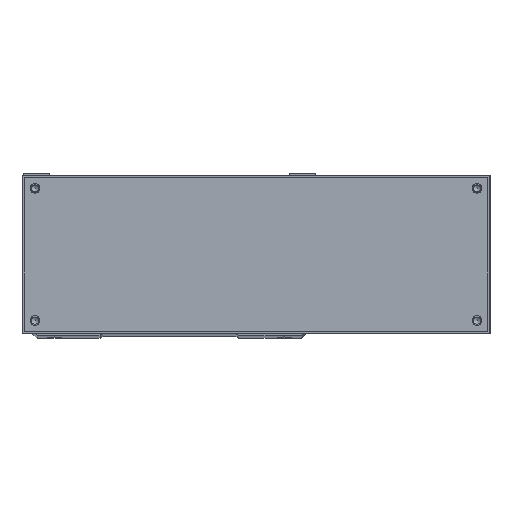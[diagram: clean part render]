
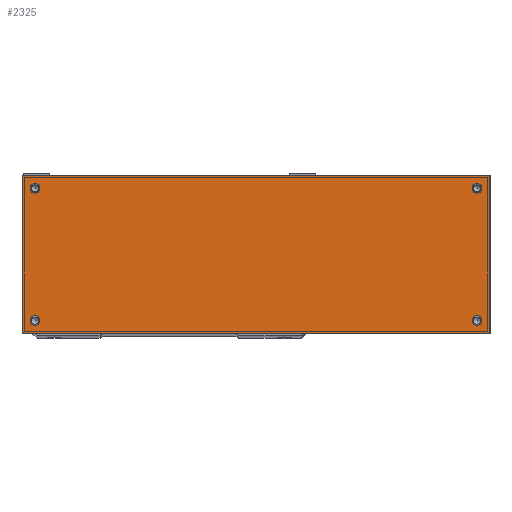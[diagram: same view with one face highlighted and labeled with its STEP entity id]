
A CAD part, top view. The second image highlights one B-rep face of the part: STEP entity #2325.
In plain terms, the highlighted planar face has unit normal (0, 0, 1).
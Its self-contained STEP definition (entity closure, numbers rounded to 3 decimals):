
#240=FACE_BOUND('',#4201,.T.);
#241=FACE_BOUND('',#4202,.T.);
#242=FACE_BOUND('',#4203,.T.);
#243=FACE_BOUND('',#4204,.T.);
#244=FACE_BOUND('',#4205,.T.);
#1036=PLANE('',#15675);
#1568=CIRCLE('',#15671,2.25);
#1569=CIRCLE('',#15672,2.25);
#1570=CIRCLE('',#15673,2.25);
#1571=CIRCLE('',#15674,2.25);
#2325=ADVANCED_FACE('8',(#240,#241,#242,#243,#244),#1036,.F.);
#4201=EDGE_LOOP('',(#8045));
#4202=EDGE_LOOP('',(#8046));
#4203=EDGE_LOOP('',(#8047));
#4204=EDGE_LOOP('',(#8048));
#4205=EDGE_LOOP('',(#8049,#8050,#8051,#8052));
#5588=LINE('',#23272,#6657);
#5589=LINE('',#23275,#6658);
#5590=LINE('',#23277,#6659);
#5591=LINE('',#23279,#6660);
#6657=VECTOR('',#17848,1.);
#6658=VECTOR('',#17849,1.);
#6659=VECTOR('',#17850,1.);
#6660=VECTOR('',#17851,1.);
#8045=ORIENTED_EDGE('',*,*,#13593,.F.);
#8046=ORIENTED_EDGE('',*,*,#13594,.F.);
#8047=ORIENTED_EDGE('',*,*,#13595,.F.);
#8048=ORIENTED_EDGE('',*,*,#13596,.F.);
#8049=ORIENTED_EDGE('',*,*,#13597,.F.);
#8050=ORIENTED_EDGE('',*,*,#13598,.F.);
#8051=ORIENTED_EDGE('',*,*,#13599,.F.);
#8052=ORIENTED_EDGE('',*,*,#13600,.F.);
#12021=VERTEX_POINT('',#23265);
#12022=VERTEX_POINT('',#23267);
#12023=VERTEX_POINT('',#23269);
#12024=VERTEX_POINT('',#23271);
#12025=VERTEX_POINT('',#23273);
#12026=VERTEX_POINT('',#23274);
#12027=VERTEX_POINT('',#23276);
#12028=VERTEX_POINT('',#23278);
#13593=EDGE_CURVE('',#12021,#12021,#1568,.T.);
#13594=EDGE_CURVE('',#12022,#12022,#1569,.T.);
#13595=EDGE_CURVE('',#12023,#12023,#1570,.T.);
#13596=EDGE_CURVE('',#12024,#12024,#1571,.T.);
#13597=EDGE_CURVE('',#12025,#12026,#5588,.T.);
#13598=EDGE_CURVE('',#12027,#12025,#5589,.T.);
#13599=EDGE_CURVE('',#12028,#12027,#5590,.T.);
#13600=EDGE_CURVE('',#12026,#12028,#5591,.T.);
#15671=AXIS2_PLACEMENT_3D('',#23264,#17840,#17841);
#15672=AXIS2_PLACEMENT_3D('',#23266,#17842,#17843);
#15673=AXIS2_PLACEMENT_3D('',#23268,#17844,#17845);
#15674=AXIS2_PLACEMENT_3D('',#23270,#17846,#17847);
#15675=AXIS2_PLACEMENT_3D('',#23280,#17852,#17853);
#17840=DIRECTION('',(0.,0.,1.));
#17841=DIRECTION('',(-1.,0.,0.));
#17842=DIRECTION('',(0.,0.,1.));
#17843=DIRECTION('',(1.,0.,0.));
#17844=DIRECTION('',(0.,0.,1.));
#17845=DIRECTION('',(-1.,0.,0.));
#17846=DIRECTION('',(0.,0.,1.));
#17847=DIRECTION('',(1.,0.,0.));
#17848=DIRECTION('',(0.,-1.,0.));
#17849=DIRECTION('',(1.,0.,0.));
#17850=DIRECTION('',(0.,1.,0.));
#17851=DIRECTION('',(-1.,0.,0.));
#17852=DIRECTION('',(0.,0.,-1.));
#17853=DIRECTION('',(-1.,0.,0.));
#23264=CARTESIAN_POINT('',(-62.,6.,193.));
#23265=CARTESIAN_POINT('',(-64.25,6.,193.));
#23266=CARTESIAN_POINT('',(142.,6.,193.));
#23267=CARTESIAN_POINT('',(144.25,6.,193.));
#23268=CARTESIAN_POINT('',(142.,67.,193.));
#23269=CARTESIAN_POINT('',(139.75,67.,193.));
#23270=CARTESIAN_POINT('',(-62.,67.,193.));
#23271=CARTESIAN_POINT('',(-59.75,67.,193.));
#23272=CARTESIAN_POINT('',(148.,73.,193.));
#23273=CARTESIAN_POINT('',(148.,73.,193.));
#23274=CARTESIAN_POINT('',(148.,0.,193.));
#23275=CARTESIAN_POINT('',(148.,73.,193.));
#23276=CARTESIAN_POINT('',(-68.,73.,193.));
#23277=CARTESIAN_POINT('',(-68.,73.,193.));
#23278=CARTESIAN_POINT('',(-68.,0.,193.));
#23279=CARTESIAN_POINT('',(148.,0.,193.));
#23280=CARTESIAN_POINT('',(40.,36.5,193.));
